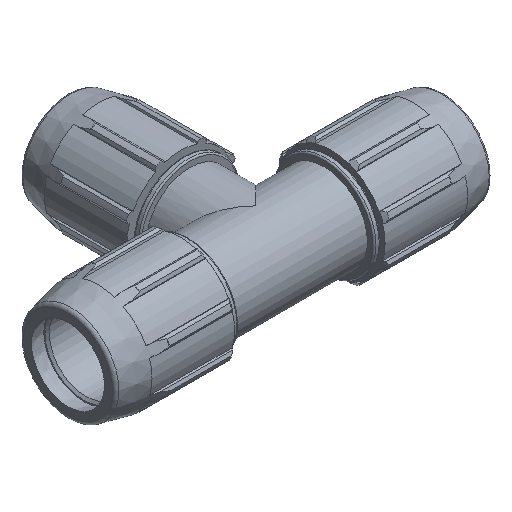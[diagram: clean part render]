
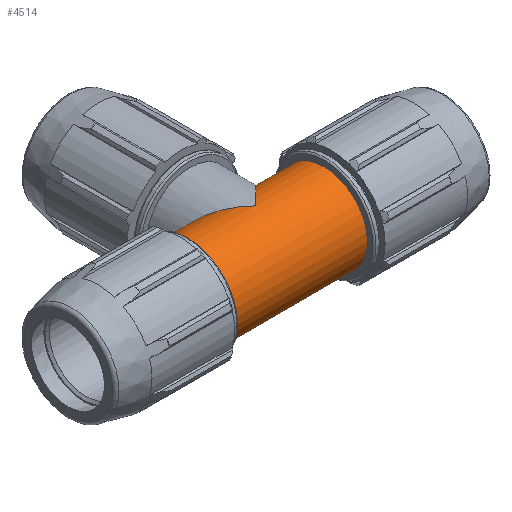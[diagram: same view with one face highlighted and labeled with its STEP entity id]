
A CAD part, isometric view. The second image highlights one B-rep face of the part: STEP entity #4514.
In plain terms, the highlighted cylindrical face has radius 67.913 mm (diameter 135.827 mm), a full revolution.
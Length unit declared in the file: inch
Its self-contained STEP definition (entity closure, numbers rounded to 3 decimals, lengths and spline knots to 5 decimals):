
#333=FACE_OUTER_BOUND('',#566,.T.);
#566=EDGE_LOOP('',(#2853,#2854,#2855,#2856,#2857,#2858,#2859,#2860,#2861,
#2862,#2863));
#819=ELLIPSE('',#4775,3.78125,2.67375);
#820=ELLIPSE('',#4776,3.78125,2.67375);
#821=ELLIPSE('',#4778,3.78125,2.67375);
#822=ELLIPSE('',#4779,3.78125,2.67375);
#825=LINE('',#6540,#1137);
#826=LINE('',#6546,#1138);
#1137=VECTOR('',#5268,2.67375);
#1138=VECTOR('',#5273,2.67375);
#1449=CIRCLE('',#4773,2.67375);
#1450=CIRCLE('',#4774,2.67375);
#1451=CIRCLE('',#4777,2.67375);
#1692=VERTEX_POINT('',#6535);
#1693=VERTEX_POINT('',#6536);
#1694=VERTEX_POINT('',#6539);
#1695=VERTEX_POINT('',#6541);
#1696=VERTEX_POINT('',#6543);
#1697=VERTEX_POINT('',#6545);
#1698=VERTEX_POINT('',#6548);
#2164=EDGE_CURVE('',#1692,#1693,#1449,.T.);
#2165=EDGE_CURVE('',#1693,#1692,#1450,.T.);
#2166=EDGE_CURVE('',#1693,#1694,#825,.T.);
#2167=EDGE_CURVE('',#1694,#1695,#819,.T.);
#2168=EDGE_CURVE('',#1695,#1696,#820,.T.);
#2169=EDGE_CURVE('',#1696,#1697,#826,.T.);
#2170=EDGE_CURVE('',#1697,#1697,#1451,.T.);
#2171=EDGE_CURVE('',#1696,#1698,#821,.T.);
#2172=EDGE_CURVE('',#1698,#1694,#822,.T.);
#2853=ORIENTED_EDGE('',*,*,#2164,.F.);
#2854=ORIENTED_EDGE('',*,*,#2165,.F.);
#2855=ORIENTED_EDGE('',*,*,#2166,.T.);
#2856=ORIENTED_EDGE('',*,*,#2167,.T.);
#2857=ORIENTED_EDGE('',*,*,#2168,.T.);
#2858=ORIENTED_EDGE('',*,*,#2169,.T.);
#2859=ORIENTED_EDGE('',*,*,#2170,.F.);
#2860=ORIENTED_EDGE('',*,*,#2169,.F.);
#2861=ORIENTED_EDGE('',*,*,#2171,.T.);
#2862=ORIENTED_EDGE('',*,*,#2172,.T.);
#2863=ORIENTED_EDGE('',*,*,#2166,.F.);
#4219=CYLINDRICAL_SURFACE('',#4772,2.67375);
#4514=ADVANCED_FACE('',(#333),#4219,.T.);
#4772=AXIS2_PLACEMENT_3D('',#6534,#5262,#5263);
#4773=AXIS2_PLACEMENT_3D('',#6537,#5264,#5265);
#4774=AXIS2_PLACEMENT_3D('',#6538,#5266,#5267);
#4775=AXIS2_PLACEMENT_3D('',#6542,#5269,#5270);
#4776=AXIS2_PLACEMENT_3D('',#6544,#5271,#5272);
#4777=AXIS2_PLACEMENT_3D('',#6547,#5274,#5275);
#4778=AXIS2_PLACEMENT_3D('',#6549,#5276,#5277);
#4779=AXIS2_PLACEMENT_3D('',#6550,#5278,#5279);
#5262=DIRECTION('center_axis',(-1.,0.,0.));
#5263=DIRECTION('ref_axis',(0.,-1.,0.));
#5264=DIRECTION('center_axis',(-1.,0.,0.));
#5265=DIRECTION('ref_axis',(0.,0.,-1.));
#5266=DIRECTION('center_axis',(-1.,0.,0.));
#5267=DIRECTION('ref_axis',(0.,0.,-1.));
#5268=DIRECTION('',(1.,0.,0.));
#5269=DIRECTION('center_axis',(-0.707,-0.707,0.));
#5270=DIRECTION('ref_axis',(-0.707,0.707,0.));
#5271=DIRECTION('center_axis',(0.707,-0.707,0.));
#5272=DIRECTION('ref_axis',(-0.707,-0.707,0.));
#5273=DIRECTION('',(1.,0.,0.));
#5274=DIRECTION('center_axis',(1.,0.,0.));
#5275=DIRECTION('ref_axis',(0.,0.,-1.));
#5276=DIRECTION('center_axis',(0.707,-0.707,0.));
#5277=DIRECTION('ref_axis',(-0.707,-0.707,0.));
#5278=DIRECTION('center_axis',(-0.707,-0.707,0.));
#5279=DIRECTION('ref_axis',(-0.707,0.707,0.));
#6534=CARTESIAN_POINT('Origin',(-4.02029,0.,
0.));
#6535=CARTESIAN_POINT('',(-4.18557,-2.67375,0.));
#6536=CARTESIAN_POINT('',(-4.18557,2.67375,0.));
#6537=CARTESIAN_POINT('Origin',(-4.18557,0.,
0.));
#6538=CARTESIAN_POINT('Origin',(-4.18557,0.,
0.));
#6539=CARTESIAN_POINT('',(-2.67375,2.67375,0.));
#6540=CARTESIAN_POINT('',(-4.02029,2.67375,0.));
#6541=CARTESIAN_POINT('',(0.,0.,-2.67375));
#6542=CARTESIAN_POINT('Origin',(0.,0.,0.));
#6543=CARTESIAN_POINT('',(2.67375,2.67375,0.));
#6544=CARTESIAN_POINT('Origin',(0.,0.,0.));
#6545=CARTESIAN_POINT('',(4.18557,2.67375,0.));
#6546=CARTESIAN_POINT('',(-4.02029,2.67375,0.));
#6547=CARTESIAN_POINT('Origin',(4.18557,0.,0.));
#6548=CARTESIAN_POINT('',(0.,0.,2.67375));
#6549=CARTESIAN_POINT('Origin',(0.,0.,0.));
#6550=CARTESIAN_POINT('Origin',(0.,0.,0.));
